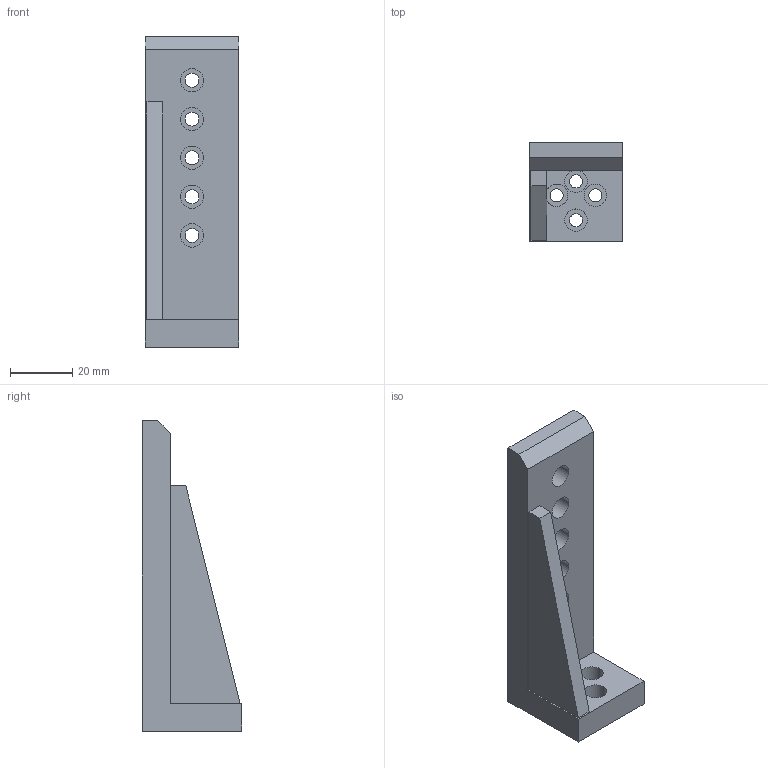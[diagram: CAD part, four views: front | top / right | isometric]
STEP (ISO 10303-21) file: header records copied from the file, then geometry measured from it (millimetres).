
FILE_DESCRIPTION (( 'STEP AP203' ), '1' );
FILE_NAME ('2AB173-20.STEP', '2008-09-17T13:06:56', ( 'Darius' ), ( '' ), 'SwSTEP 2.0', 'SolidWorks 2003240', '' );
FILE_SCHEMA (( 'CONFIG_CONTROL_DESIGN' ));
Length unit declared in the file: millimetre
Products named in the file (1): 2AB173-20
Bounding box: 30 x 32 x 100 mm (x, y, z)
Volume: 33846.2 mm3; surface area: 15147.4 mm2
Topology: 1 solids, 19 shells, 321 faces, 753 edges, 468 vertices
Faces by surface type: cylinder 126, plane 123, cone 54, bspline 18
Entity records: 9455 total; most frequent: CARTESIAN_POINT 2106, DIRECTION 1564, ORIENTED_EDGE 1434, EDGE_CURVE 717, AXIS2_PLACEMENT_3D 620, VERTEX_POINT 468, EDGE_LOOP 391, VECTOR 324
